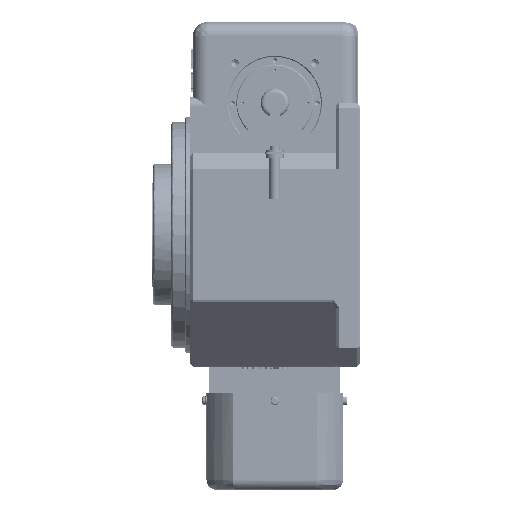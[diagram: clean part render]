
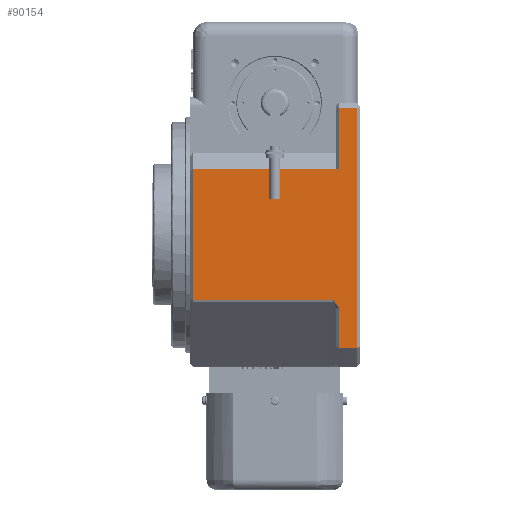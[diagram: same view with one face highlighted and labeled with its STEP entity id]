
A CAD part, left-side view. The second image highlights one B-rep face of the part: STEP entity #90154.
In plain terms, the highlighted planar face has unit normal (-1, 0, 0).
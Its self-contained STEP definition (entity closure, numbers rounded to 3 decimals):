
#4399 = LINE ( 'NONE', #147572, #142904 ) ;
#4574 = EDGE_CURVE ( 'NONE', #130906, #107771, #48067, .T. ) ;
#4719 = CARTESIAN_POINT ( 'NONE',  ( -140., 22., -120. ) ) ;
#12650 = CARTESIAN_POINT ( 'NONE',  ( -140., 177., 70. ) ) ;
#16315 = CARTESIAN_POINT ( 'NONE',  ( -140., 3., -120. ) ) ;
#19519 = ORIENTED_EDGE ( 'NONE', *, *, #103322, .F. ) ;
#20822 = EDGE_CURVE ( 'NONE', #89633, #146836, #60013, .T. ) ;
#21431 = LINE ( 'NONE', #229604, #63910 ) ;
#23225 = CARTESIAN_POINT ( 'NONE',  ( -140., 22., 135. ) ) ;
#26063 = FACE_OUTER_BOUND ( 'NONE', #160392, .T. ) ;
#26615 = VECTOR ( 'NONE', #164891, 1000. ) ;
#27636 = ORIENTED_EDGE ( 'NONE', *, *, #170495, .F. ) ;
#30319 = CARTESIAN_POINT ( 'NONE',  ( -140., 3., 135. ) ) ;
#38357 = CARTESIAN_POINT ( 'NONE',  ( -140., 177., 135. ) ) ;
#41746 = VECTOR ( 'NONE', #214087, 1000. ) ;
#48067 = LINE ( 'NONE', #23225, #234902 ) ;
#49333 = ORIENTED_EDGE ( 'NONE', *, *, #4574, .F. ) ;
#51676 = ORIENTED_EDGE ( 'NONE', *, *, #123166, .T. ) ;
#51851 = AXIS2_PLACEMENT_3D ( 'NONE', #194778, #86493, #213074 ) ;
#59701 = VECTOR ( 'NONE', #186112, 1000. ) ;
#60013 = LINE ( 'NONE', #206563, #198654 ) ;
#60850 = ORIENTED_EDGE ( 'NONE', *, *, #133430, .F. ) ;
#63910 = VECTOR ( 'NONE', #67393, 1000. ) ;
#65332 = LINE ( 'NONE', #150491, #59701 ) ;
#67393 = DIRECTION ( 'NONE',  ( 0., 0., 1. ) ) ;
#70837 = CARTESIAN_POINT ( 'NONE',  ( -140., 22., 70. ) ) ;
#78599 = DIRECTION ( 'NONE',  ( 0., 0., 1. ) ) ;
#86493 = DIRECTION ( 'NONE',  ( 1., 0., 0. ) ) ;
#89532 = CARTESIAN_POINT ( 'NONE',  ( -140., 177., -68.757 ) ) ;
#89633 = VERTEX_POINT ( 'NONE', #16315 ) ;
#90154 = ADVANCED_FACE ( 'NONE', ( #26063 ), #212287, .F. ) ;
#92113 = VERTEX_POINT ( 'NONE', #222824 ) ;
#95400 = VECTOR ( 'NONE', #132277, 1000. ) ;
#98109 = DIRECTION ( 'NONE',  ( 0., 0., 1. ) ) ;
#101964 = LINE ( 'NONE', #118957, #144365 ) ;
#103322 = EDGE_CURVE ( 'NONE', #200753, #175919, #159636, .T. ) ;
#104202 = VERTEX_POINT ( 'NONE', #149476 ) ;
#107771 = VERTEX_POINT ( 'NONE', #158796 ) ;
#114128 = CARTESIAN_POINT ( 'NONE',  ( -140., 180., -68.757 ) ) ;
#118957 = CARTESIAN_POINT ( 'NONE',  ( -140., 180., 70. ) ) ;
#123166 = EDGE_CURVE ( 'NONE', #146836, #107771, #143488, .T. ) ;
#130906 = VERTEX_POINT ( 'NONE', #70837 ) ;
#132277 = DIRECTION ( 'NONE',  ( 0., 1., 0. ) ) ;
#133430 = EDGE_CURVE ( 'NONE', #89633, #199251, #4399, .T. ) ;
#142904 = VECTOR ( 'NONE', #166581, 1000. ) ;
#143488 = LINE ( 'NONE', #195816, #41746 ) ;
#144365 = VECTOR ( 'NONE', #227413, 1000. ) ;
#146836 = VERTEX_POINT ( 'NONE', #30319 ) ;
#147572 = CARTESIAN_POINT ( 'NONE',  ( -140., 180., -120. ) ) ;
#149107 = LINE ( 'NONE', #114128, #95400 ) ;
#149476 = CARTESIAN_POINT ( 'NONE',  ( -140., 22., -77.243 ) ) ;
#150491 = CARTESIAN_POINT ( 'NONE',  ( -140., 22., -77.243 ) ) ;
#158796 = CARTESIAN_POINT ( 'NONE',  ( -140., 22., 135. ) ) ;
#159636 = LINE ( 'NONE', #38357, #26615 ) ;
#160392 = EDGE_LOOP ( 'NONE', ( #182010, #188590, #60850, #217087, #51676, #49333, #27636, #19519, #233729 ) ) ;
#164891 = DIRECTION ( 'NONE',  ( 0., 0., 1. ) ) ;
#166581 = DIRECTION ( 'NONE',  ( 0., 1., 0. ) ) ;
#170495 = EDGE_CURVE ( 'NONE', #175919, #130906, #101964, .T. ) ;
#175919 = VERTEX_POINT ( 'NONE', #12650 ) ;
#182010 = ORIENTED_EDGE ( 'NONE', *, *, #234300, .F. ) ;
#186112 = DIRECTION ( 'NONE',  ( 0., 0.577, 0.816 ) ) ;
#187456 = EDGE_CURVE ( 'NONE', #199251, #104202, #21431, .T. ) ;
#188590 = ORIENTED_EDGE ( 'NONE', *, *, #187456, .F. ) ;
#194778 = CARTESIAN_POINT ( 'NONE',  ( -140., 180., 135. ) ) ;
#195816 = CARTESIAN_POINT ( 'NONE',  ( -140., 180., 135. ) ) ;
#198654 = VECTOR ( 'NONE', #98109, 1000. ) ;
#199251 = VERTEX_POINT ( 'NONE', #4719 ) ;
#200753 = VERTEX_POINT ( 'NONE', #89532 ) ;
#206563 = CARTESIAN_POINT ( 'NONE',  ( -140., 3., 135. ) ) ;
#212287 = PLANE ( 'NONE',  #51851 ) ;
#213074 = DIRECTION ( 'NONE',  ( 0., 0., -1. ) ) ;
#214087 = DIRECTION ( 'NONE',  ( 0., 1., 0. ) ) ;
#215138 = EDGE_CURVE ( 'NONE', #92113, #200753, #149107, .T. ) ;
#217087 = ORIENTED_EDGE ( 'NONE', *, *, #20822, .T. ) ;
#222824 = CARTESIAN_POINT ( 'NONE',  ( -140., 28., -68.757 ) ) ;
#227413 = DIRECTION ( 'NONE',  ( 0., -1., 0. ) ) ;
#229604 = CARTESIAN_POINT ( 'NONE',  ( -140., 22., 135. ) ) ;
#233729 = ORIENTED_EDGE ( 'NONE', *, *, #215138, .F. ) ;
#234300 = EDGE_CURVE ( 'NONE', #104202, #92113, #65332, .T. ) ;
#234902 = VECTOR ( 'NONE', #78599, 1000. ) ;
